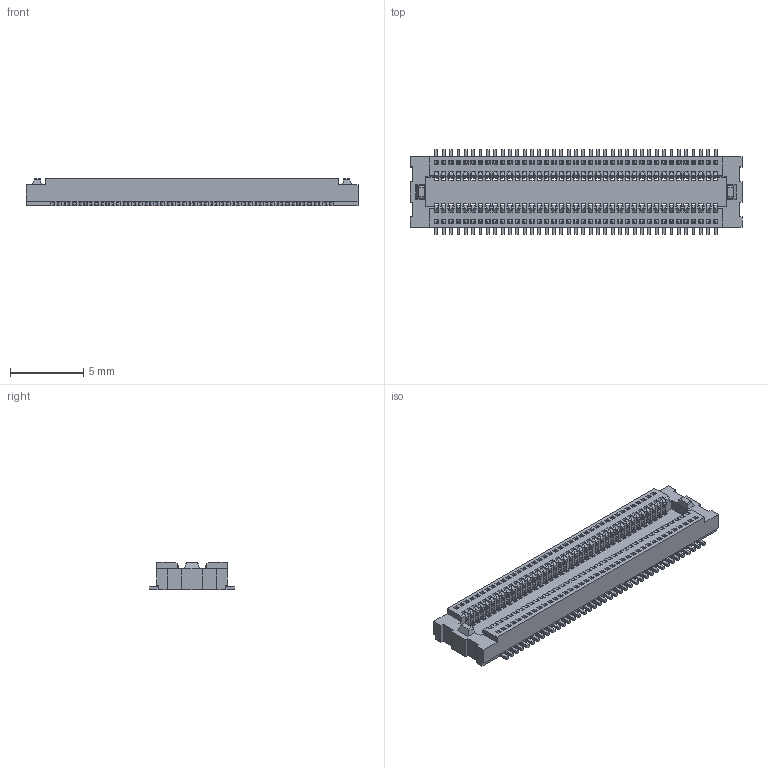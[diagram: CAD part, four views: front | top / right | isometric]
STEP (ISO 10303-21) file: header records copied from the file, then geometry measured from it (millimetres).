
FILE_DESCRIPTION(('CATIA V5 STEP Exchange'),'2;1');
FILE_NAME('F:\黄富鸿\板对板\0.5 单槽\无柱\母座\H1.85\HC-PBB05-1-78-F-H1.85-G1-R-06 (BTB0.5 单槽 母座 立贴 编带)-HCTL.stp','2026-01-21T08:00:31+00:00',('none'),('none'),'CATIA Version 5 Release 20 GA (IN-10)','CATIA V5 STEP AP203','none');
FILE_SCHEMA(('CONFIG_CONTROL_DESIGN'));
Products named in the file (1): Part2
Bounding box: 22.6 x 5.76 x 1.85 mm (x, y, z)
Volume: 122.5 mm3; surface area: 993.1 mm2
Topology: 79 solids, 79 shells, 3486 faces, 10682 edges, 7120 vertices
Faces by surface type: plane 2390, cylinder 1096
Entity records: 101186 total; most frequent: ORIENTED_EDGE 21364, CARTESIAN_POINT 18139, DIRECTION 11190, EDGE_CURVE 10682, VECTOR 8490, LINE 8490, VERTEX_POINT 7120, EDGE_LOOP 3564
